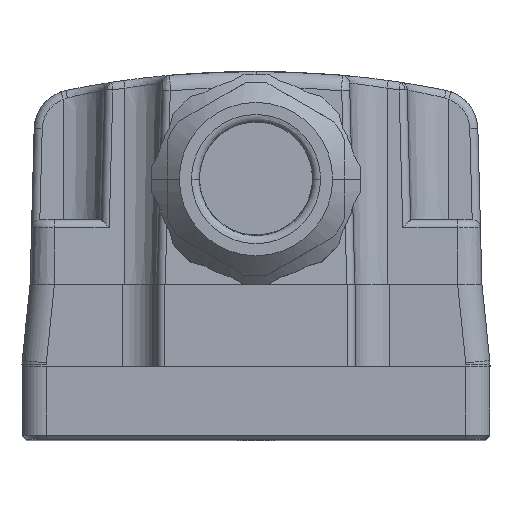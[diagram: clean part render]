
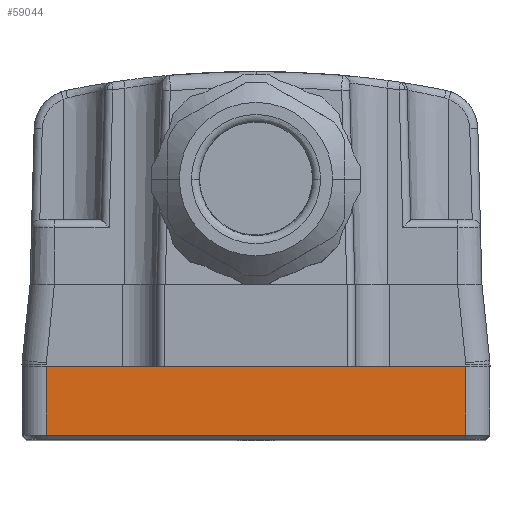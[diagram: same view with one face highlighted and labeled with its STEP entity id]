
A CAD part, top view. The second image highlights one B-rep face of the part: STEP entity #59044.
In plain terms, the highlighted planar face has unit normal (0, 0, 1).
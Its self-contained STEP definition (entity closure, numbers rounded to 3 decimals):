
#30658=DIRECTION('',(0.,1.,0.));
#30659=VECTOR('',#30658,8.5);
#30660=CARTESIAN_POINT('',(-26.,0.5,153.));
#30661=LINE('',#30660,#30659);
#30662=DIRECTION('',(-1.,0.,0.));
#30663=VECTOR('',#30662,52.);
#30664=CARTESIAN_POINT('',(26.,9.,153.));
#30665=LINE('',#30664,#30663);
#30666=DIRECTION('',(1.,0.,0.));
#30667=VECTOR('',#30666,52.);
#30668=CARTESIAN_POINT('',(-26.,0.5,153.));
#30669=LINE('',#30668,#30667);
#30670=DIRECTION('',(0.,-1.,0.));
#30671=VECTOR('',#30670,8.5);
#30672=CARTESIAN_POINT('',(26.,9.,153.));
#30673=LINE('',#30672,#30671);
#50009=CARTESIAN_POINT('',(26.,9.,153.));
#50010=CARTESIAN_POINT('',(-26.,9.,153.));
#50011=VERTEX_POINT('',#50009);
#50012=VERTEX_POINT('',#50010);
#51128=CARTESIAN_POINT('',(-26.,0.5,153.));
#51129=VERTEX_POINT('',#51128);
#52349=CARTESIAN_POINT('',(26.,0.5,
153.));
#52350=VERTEX_POINT('',#52349);
#59031=CARTESIAN_POINT('',(0.,4.5,153.));
#59032=DIRECTION('',(0.,0.,1.));
#59033=DIRECTION('',(1.,0.,0.));
#59034=AXIS2_PLACEMENT_3D('',#59031,#59032,#59033);
#59035=PLANE('',#59034);
#59036=ORIENTED_EDGE('',*,*,#59024,.T.);
#59037=ORIENTED_EDGE('',*,*,#58828,.F.);
#59039=ORIENTED_EDGE('',*,*,#59038,.T.);
#59041=ORIENTED_EDGE('',*,*,#59040,.F.);
#59042=EDGE_LOOP('',(#59036,#59037,#59039,#59041));
#59043=FACE_OUTER_BOUND('',#59042,.F.);
#59044=ADVANCED_FACE('',(#59043),#59035,.T.);
#58828=EDGE_CURVE('',#50011,#50012,#30665,.T.);
#59024=EDGE_CURVE('',#51129,#50012,#30661,.T.);
#59038=EDGE_CURVE('',#50011,#52350,#30673,.T.);
#59040=EDGE_CURVE('',#51129,#52350,#30669,.T.);
